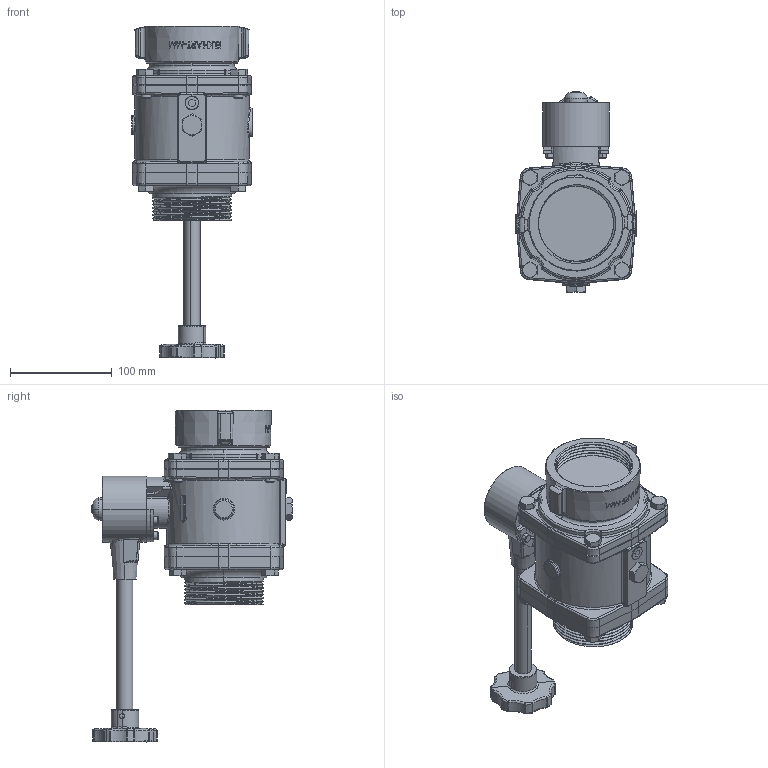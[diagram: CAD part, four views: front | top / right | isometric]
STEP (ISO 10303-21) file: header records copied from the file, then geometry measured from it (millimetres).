
FILE_DESCRIPTION (( 'STEP AP214' ), '1' );
FILE_NAME ('02859002.STEP', '2014-05-22T14:44:53', ( 'eb' ), ( '' ), 'SwSTEP 2.0', 'SolidWorks 2013', '' );
FILE_SCHEMA (( 'AUTOMOTIVE_DESIGN' ));
Length unit declared in the file: inch
Products named in the file (1): 02859002
Bounding box: 119.06 x 197.68 x 327.07 mm (x, y, z)
Volume: 1943232.2 mm3; surface area: 150945.7 mm2
Topology: 1 solids, 1 shells, 1012 faces, 2442 edges, 1450 vertices
Faces by surface type: bspline 251, plane 248, cylinder 210, cone 174, torus 72, sphere 57
Entity records: 51502 total; most frequent: CARTESIAN_POINT 23474, ORIENTED_EDGE 4818, DIRECTION 3925, EDGE_CURVE 2409, AXIS2_PLACEMENT_3D 1630, VERTEX_POINT 1446, EDGE_LOOP 1059, FACE_OUTER_BOUND 1012
